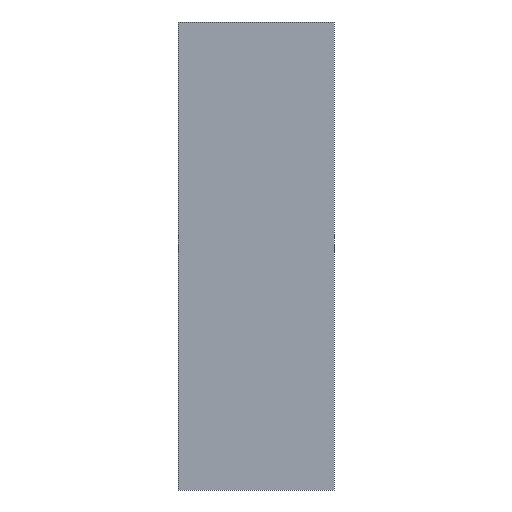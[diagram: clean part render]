
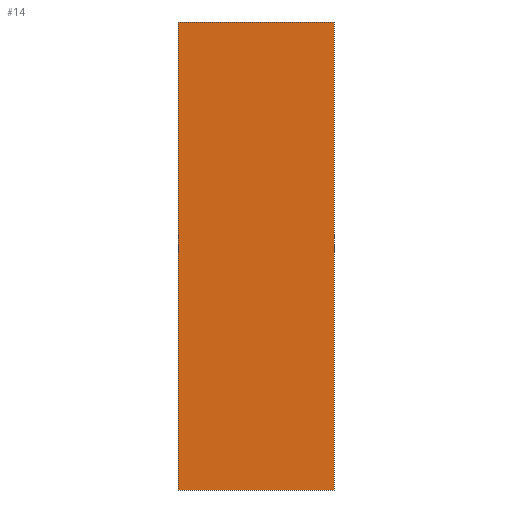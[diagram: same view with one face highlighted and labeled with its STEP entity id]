
A CAD part, front view. The second image highlights one B-rep face of the part: STEP entity #14.
In plain terms, the highlighted planar face has unit normal (0, -1, 0).
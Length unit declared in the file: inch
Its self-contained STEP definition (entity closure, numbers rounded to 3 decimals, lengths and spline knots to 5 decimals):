
#14=ADVANCED_FACE('',(#20),#88,.T.);
#20=FACE_OUTER_BOUND('',#26,.T.);
#26=EDGE_LOOP('',(#32,#33,#34,#35));
#32=ORIENTED_EDGE('',*,*,#56,.T.);
#33=ORIENTED_EDGE('',*,*,#65,.T.);
#34=ORIENTED_EDGE('',*,*,#60,.F.);
#35=ORIENTED_EDGE('',*,*,#64,.F.);
#56=EDGE_CURVE('',#80,#81,#68,.T.);
#60=EDGE_CURVE('',#84,#85,#72,.T.);
#64=EDGE_CURVE('',#80,#84,#76,.T.);
#65=EDGE_CURVE('',#81,#85,#77,.T.);
#68=B_SPLINE_CURVE_WITH_KNOTS('',1,(#217,#218),.UNSPECIFIED.,.F.,.F.,(2,
2),(0.,2.),.UNSPECIFIED.);
#72=B_SPLINE_CURVE_WITH_KNOTS('',1,(#225,#226),.UNSPECIFIED.,.F.,.F.,(2,
2),(0.,2.),.UNSPECIFIED.);
#76=B_SPLINE_CURVE_WITH_KNOTS('',1,(#233,#234),.UNSPECIFIED.,.F.,.F.,(2,
2),(0.,6.),.UNSPECIFIED.);
#77=B_SPLINE_CURVE_WITH_KNOTS('',1,(#235,#236),.UNSPECIFIED.,.F.,.F.,(2,
2),(0.,6.),.UNSPECIFIED.);
#80=VERTEX_POINT('',#209);
#81=VERTEX_POINT('',#210);
#84=VERTEX_POINT('',#213);
#85=VERTEX_POINT('',#214);
#88=PLANE('',#185);
#185=AXIS2_PLACEMENT_3D('',#203,#194,$);
#194=DIRECTION('',(0.,-1.,0.));
#203=CARTESIAN_POINT('',(0.,0.,0.));
#209=CARTESIAN_POINT('',(0.,0.,0.));
#210=CARTESIAN_POINT('',(2.,0.,0.));
#213=CARTESIAN_POINT('',(0.,0.,6.));
#214=CARTESIAN_POINT('',(2.,0.,6.));
#217=CARTESIAN_POINT('',(0.,0.,0.));
#218=CARTESIAN_POINT('',(2.,0.,0.));
#225=CARTESIAN_POINT('',(0.,0.,6.));
#226=CARTESIAN_POINT('',(2.,0.,6.));
#233=CARTESIAN_POINT('',(0.,0.,0.));
#234=CARTESIAN_POINT('',(0.,0.,6.));
#235=CARTESIAN_POINT('',(2.,0.,0.));
#236=CARTESIAN_POINT('',(2.,0.,6.));
